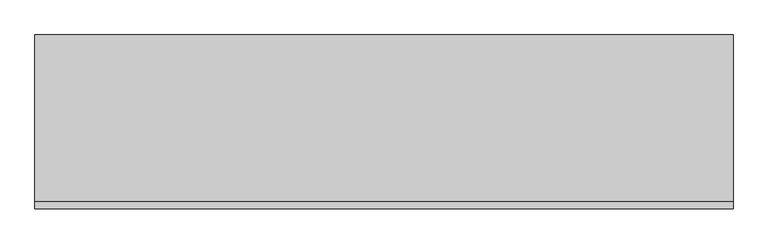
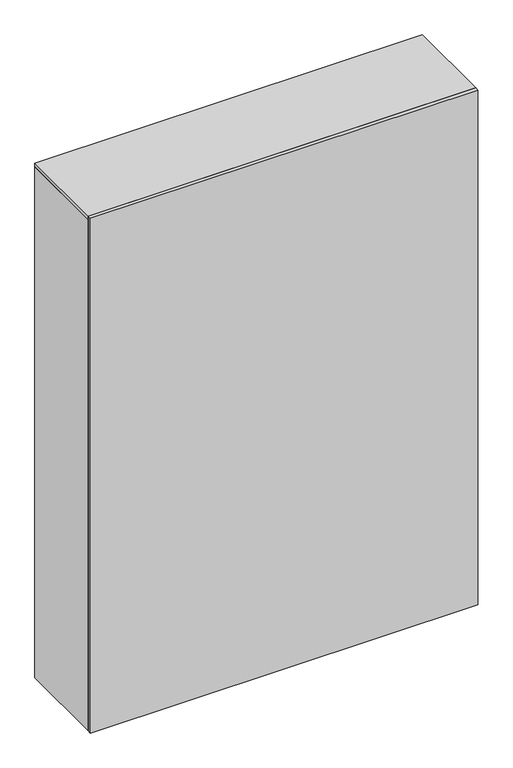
"""IFC4 building model written with IfcOpenShell, lengths in millimetres: furniture geometry, C20 Estanteria grande ADM : C20.3 Estanteria grande 46."""

from ifc_helpers import new_model, si_unit, frame, origin, place, context, project, spatial, polyline, outline, extrude, source, transform, mapped, element, save


def furniture_bbb2e843(model_context):
    return source(origin(), model_context, "Body", "SweptSolid", [
        extrude(outline(polyline([(969.7003264, 0.0), (-880.2996736, 0.0), (-880.2996736, 18.0), (969.7003264, 18.0), (969.7003264, 0.0)])), frame((0.0, 0.0, 20.0), z_axis=(0.0, 0.0, 1.0), x_axis=(1.0, 0.0, 0.0)), (0.0, 0.0, 1.0), 2600.0),
        extrude(outline(polyline([(951.7003264, 460.0), (951.7003264, 18.0), (359.0336598, 18.0), (359.0336598, 460.0), (951.7003264, 460.0)])), frame((0.0, 0.0, 789.6), z_axis=(0.0, 0.0, 1.0), x_axis=(1.0, 0.0, 0.0)), (0.0, 0.0, 1.0), 18.0),
        extrude(outline(polyline([(951.7003264, 460.0), (951.7003264, 18.0), (359.0336598, 18.0), (359.0336598, 460.0), (951.7003264, 460.0)])), frame((0.0, 0.0, 1159.2), z_axis=(0.0, 0.0, 1.0), x_axis=(1.0, 0.0, 0.0)), (0.0, 0.0, 1.0), 18.0),
        extrude(outline(polyline([(341.0336598, 460.0), (341.0336598, 18.0), (-251.6330069, 18.0), (-251.6330069, 460.0), (341.0336598, 460.0)])), frame((0.0, 0.0, 789.6), z_axis=(0.0, 0.0, 1.0), x_axis=(1.0, 0.0, 0.0)), (0.0, 0.0, 1.0), 18.0),
        extrude(outline(polyline([(341.0336598, 460.0), (341.0336598, 18.0), (-251.6330069, 18.0), (-251.6330069, 460.0), (341.0336598, 460.0)])), frame((0.0, 0.0, 1159.2), z_axis=(0.0, 0.0, 1.0), x_axis=(1.0, 0.0, 0.0)), (0.0, 0.0, 1.0), 18.0),
        extrude(outline(polyline([(-269.6330069, 460.0), (-269.6330069, 18.0), (-862.2996736, 18.0), (-862.2996736, 460.0), (-269.6330069, 460.0)])), frame((0.0, 0.0, 789.6), z_axis=(0.0, 0.0, 1.0), x_axis=(1.0, 0.0, 0.0)), (0.0, 0.0, 1.0), 18.0),
        extrude(outline(polyline([(-269.6330069, 460.0), (-269.6330069, 18.0), (-862.2996736, 18.0), (-862.2996736, 460.0), (-269.6330069, 460.0)])), frame((0.0, 0.0, 1159.2), z_axis=(0.0, 0.0, 1.0), x_axis=(1.0, 0.0, 0.0)), (0.0, 0.0, 1.0), 18.0),
        extrude(outline(polyline([(951.7003264, 460.0), (951.7003264, 18.0), (359.0336598, 18.0), (359.0336598, 460.0), (951.7003264, 460.0)])), frame((0.0, 0.0, 420.0), z_axis=(0.0, 0.0, 1.0), x_axis=(1.0, 0.0, 0.0)), (0.0, 0.0, 1.0), 18.0),
        extrude(outline(polyline([(341.0336598, 460.0), (341.0336598, 18.0), (-251.6330069, 18.0), (-251.6330069, 460.0), (341.0336598, 460.0)])), frame((0.0, 0.0, 420.0), z_axis=(0.0, 0.0, 1.0), x_axis=(1.0, 0.0, 0.0)), (0.0, 0.0, 1.0), 18.0),
        extrude(outline(polyline([(-269.6330069, 460.0), (-269.6330069, 18.0), (-862.2996736, 18.0), (-862.2996736, 460.0), (-269.6330069, 460.0)])), frame((0.0, 0.0, 420.0), z_axis=(0.0, 0.0, 1.0), x_axis=(1.0, 0.0, 0.0)), (0.0, 0.0, 1.0), 18.0),
        extrude(outline(polyline([(951.7003264, 460.0), (951.7003264, 18.0), (359.0336598, 18.0), (359.0336598, 460.0), (951.7003264, 460.0)])), frame((0.0, 0.0, 170.0), z_axis=(0.0, 0.0, 1.0), x_axis=(1.0, 0.0, 0.0)), (0.0, 0.0, 1.0), 18.0),
        extrude(outline(polyline([(341.0336598, 460.0), (341.0336598, 18.0), (-251.6330069, 18.0), (-251.6330069, 460.0), (341.0336598, 460.0)])), frame((0.0, 0.0, 170.0), z_axis=(0.0, 0.0, 1.0), x_axis=(1.0, 0.0, 0.0)), (0.0, 0.0, 1.0), 18.0),
        extrude(outline(polyline([(-269.6330069, 460.0), (-269.6330069, 18.0), (-862.2996736, 18.0), (-862.2996736, 460.0), (-269.6330069, 460.0)])), frame((0.0, 0.0, 170.0), z_axis=(0.0, 0.0, 1.0), x_axis=(1.0, 0.0, 0.0)), (0.0, 0.0, 1.0), 18.0),
        extrude(outline(polyline([(969.7003264, 460.0), (969.7003264, 18.0), (-880.2996736, 18.0), (-880.2996736, 460.0), (969.7003264, 460.0)])), frame((0.0, 0.0, 2602.0), z_axis=(0.0, 0.0, 1.0), x_axis=(1.0, 0.0, 0.0)), (0.0, 0.0, 1.0), 18.0),
        extrude(outline(polyline([(951.7003264, 460.0), (951.7003264, 18.0), (359.0336598, 18.0), (359.0336598, 460.0), (951.7003264, 460.0)])), frame((0.0, 0.0, 1528.8), z_axis=(0.0, 0.0, 1.0), x_axis=(1.0, 0.0, 0.0)), (0.0, 0.0, 1.0), 18.0),
        extrude(outline(polyline([(951.7003264, 460.0), (951.7003264, 18.0), (359.0336598, 18.0), (359.0336598, 460.0), (951.7003264, 460.0)])), frame((0.0, 0.0, 1898.4), z_axis=(0.0, 0.0, 1.0), x_axis=(1.0, 0.0, 0.0)), (0.0, 0.0, 1.0), 18.0),
        extrude(outline(polyline([(951.7003264, 460.0), (951.7003264, 18.0), (359.0336598, 18.0), (359.0336598, 460.0), (951.7003264, 460.0)])), frame((0.0, 0.0, 2268.0), z_axis=(0.0, 0.0, 1.0), x_axis=(1.0, 0.0, 0.0)), (0.0, 0.0, 1.0), 18.0),
        extrude(outline(polyline([(341.0336598, 460.0), (341.0336598, 18.0), (-251.6330069, 18.0), (-251.6330069, 460.0), (341.0336598, 460.0)])), frame((0.0, 0.0, 1528.8), z_axis=(0.0, 0.0, 1.0), x_axis=(1.0, 0.0, 0.0)), (0.0, 0.0, 1.0), 18.0),
        extrude(outline(polyline([(341.0336598, 460.0), (341.0336598, 18.0), (-251.6330069, 18.0), (-251.6330069, 460.0), (341.0336598, 460.0)])), frame((0.0, 0.0, 1898.4), z_axis=(0.0, 0.0, 1.0), x_axis=(1.0, 0.0, 0.0)), (0.0, 0.0, 1.0), 18.0),
        extrude(outline(polyline([(341.0336598, 460.0), (341.0336598, 18.0), (-251.6330069, 18.0), (-251.6330069, 460.0), (341.0336598, 460.0)])), frame((0.0, 0.0, 2268.0), z_axis=(0.0, 0.0, 1.0), x_axis=(1.0, 0.0, 0.0)), (0.0, 0.0, 1.0), 18.0),
        extrude(outline(polyline([(-269.6330069, 460.0), (-269.6330069, 18.0), (-862.2996736, 18.0), (-862.2996736, 460.0), (-269.6330069, 460.0)])), frame((0.0, 0.0, 1528.8), z_axis=(0.0, 0.0, 1.0), x_axis=(1.0, 0.0, 0.0)), (0.0, 0.0, 1.0), 18.0),
        extrude(outline(polyline([(-269.6330069, 460.0), (-269.6330069, 18.0), (-862.2996736, 18.0), (-862.2996736, 460.0), (-269.6330069, 460.0)])), frame((0.0, 0.0, 1898.4), z_axis=(0.0, 0.0, 1.0), x_axis=(1.0, 0.0, 0.0)), (0.0, 0.0, 1.0), 18.0),
        extrude(outline(polyline([(-269.6330069, 460.0), (-269.6330069, 18.0), (-862.2996736, 18.0), (-862.2996736, 460.0), (-269.6330069, 460.0)])), frame((0.0, 0.0, 2268.0), z_axis=(0.0, 0.0, 1.0), x_axis=(1.0, 0.0, 0.0)), (0.0, 0.0, 1.0), 18.0),
        extrude(outline(polyline([(969.7003264, 460.0), (969.7003264, 18.0), (951.7003264, 18.0), (951.7003264, 460.0), (969.7003264, 460.0)])), frame((0.0, 0.0, 20.0), z_axis=(0.0, 0.0, 1.0), x_axis=(1.0, 0.0, 0.0)), (0.0, 0.0, 1.0), 2582.0),
        extrude(outline(polyline([(-880.2996736, 18.0), (-880.2996736, 460.0), (-862.2996736, 460.0), (-862.2996736, 18.0), (-880.2996736, 18.0)])), frame((0.0, 0.0, 20.0), z_axis=(0.0, 0.0, 1.0), x_axis=(1.0, 0.0, 0.0)), (0.0, 0.0, 1.0), 2582.0),
        extrude(outline(polyline([(-269.6330069, 18.0), (-269.6330069, 460.0), (-251.6330069, 460.0), (-251.6330069, 18.0), (-269.6330069, 18.0)])), frame((0.0, 0.0, 20.0), z_axis=(0.0, 0.0, 1.0), x_axis=(1.0, 0.0, 0.0)), (0.0, 0.0, 1.0), 2582.0),
        extrude(outline(polyline([(341.0336598, 18.0), (341.0336598, 460.0), (359.0336598, 460.0), (359.0336598, 18.0), (341.0336598, 18.0)])), frame((0.0, 0.0, 20.0), z_axis=(0.0, 0.0, 1.0), x_axis=(1.0, 0.0, 0.0)), (0.0, 0.0, 1.0), 2582.0),
        extrude(outline(polyline([(-269.6330069, 460.0), (-269.6330069, 448.0), (-862.2996736, 448.0), (-862.2996736, 460.0), (-269.6330069, 460.0)])), frame((0.0, 0.0, 20.0), z_axis=(0.0, 0.0, 1.0), x_axis=(1.0, 0.0, 0.0)), (0.0, 0.0, 1.0), 150.0),
        extrude(outline(polyline([(341.0336598, 460.0), (341.0336598, 448.0), (-251.6330069, 448.0), (-251.6330069, 460.0), (341.0336598, 460.0)])), frame((0.0, 0.0, 20.0), z_axis=(0.0, 0.0, 1.0), x_axis=(1.0, 0.0, 0.0)), (0.0, 0.0, 1.0), 150.0),
        extrude(outline(polyline([(951.7003264, 460.0), (951.7003264, 448.0), (359.0336598, 448.0), (359.0336598, 460.0), (951.7003264, 460.0)])), frame((0.0, 0.0, 20.0), z_axis=(0.0, 0.0, 1.0), x_axis=(1.0, 0.0, 0.0)), (0.0, 0.0, 1.0), 150.0),
    ])


if __name__ == "__main__":
    model = new_model("IFC4")
    model_context = context("Model", 3, world=origin())
    ifc_project = project(units=[si_unit("LENGTHUNIT", "METRE", prefix="MILLI")], contexts=[model_context])
    site = spatial("IfcSite", under=ifc_project)
    building = spatial("IfcBuilding", under=site)
    placement = place(None, origin())
    furniture_shape = furniture_bbb2e843(model_context)
    element("IfcFurniture", 1, ObjectType="C20 Estanteria grande ADM : C20.3 Estanteria grande 46", at=placement, inside=building, context=model_context, shape_type="MappedRepresentation", body=[
        mapped(furniture_shape, transform((0.0, 0.0, 0.0), x_axis=(1.0, 0.0, 0.0), y_axis=(0.0, 1.0, 0.0), z_axis=(0.0, 0.0, 1.0))),
    ])
    save(model, "model.ifc")
